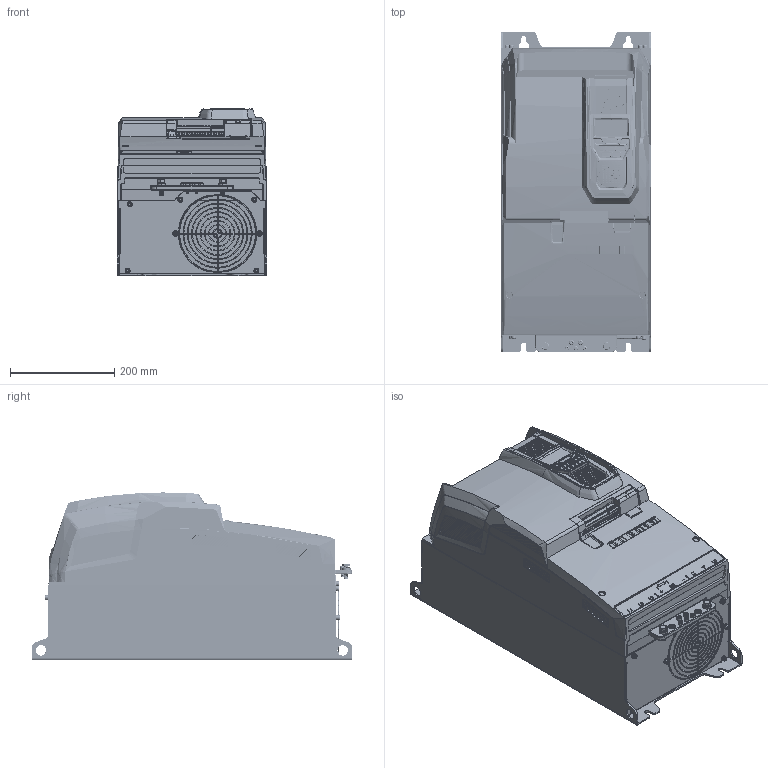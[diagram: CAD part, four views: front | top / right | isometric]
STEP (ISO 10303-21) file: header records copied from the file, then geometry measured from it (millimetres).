
FILE_DESCRIPTION (( 'STEP AP203' ), '1' );
FILE_NAME ('P2.IP20.SIZE6A (ENVELOPE).STEP', '2020-11-23T16:49:54', ( '' ), ( '' ), 'SwSTEP 2.0', 'SolidWorks 2020', '' );
FILE_SCHEMA (( 'CONFIG_CONTROL_DESIGN' ));
Products named in the file (1): P2.IP20.SIZE6A (ENVELOPE)
Bounding box: 286 x 614.3 x 320.32 mm (x, y, z)
Volume: 42513011 mm3; surface area: 1065427.1 mm2
Topology: 1 solids, 42 shells, 8281 faces, 22235 edges, 14750 vertices
Faces by surface type: plane 5516, cylinder 1451, bspline 1129, cone 185
Entity records: 345501 total; most frequent: CARTESIAN_POINT 158620, ORIENTED_EDGE 44452, DIRECTION 29081, EDGE_CURVE 22226, VERTEX_POINT 14750, LINE 11441, VECTOR 11441, EDGE_LOOP 9210
